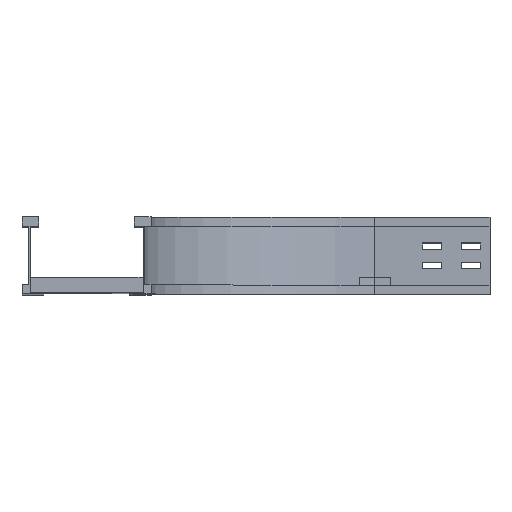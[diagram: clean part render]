
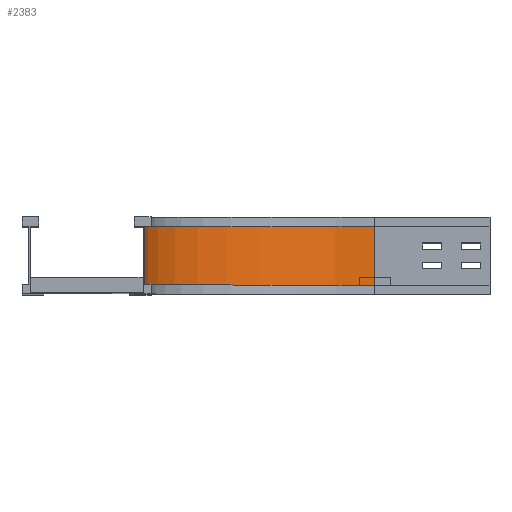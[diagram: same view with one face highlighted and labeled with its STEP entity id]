
A CAD part, top view. The second image highlights one B-rep face of the part: STEP entity #2383.
In plain terms, the highlighted cylindrical face has radius 300 mm (diameter 600 mm), a partial arc.
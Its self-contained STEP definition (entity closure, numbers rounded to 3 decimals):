
#127 = CARTESIAN_POINT ( 'NONE',  ( 291., 0., -150. ) ) ;
#142 = AXIS2_PLACEMENT_3D ( 'NONE', #127, #4119, #1133 ) ;
#555 = CARTESIAN_POINT ( 'NONE',  ( 291., 12., -450. ) ) ;
#563 = LINE ( 'NONE', #1898, #2064 ) ;
#804 = DIRECTION ( 'NONE',  ( 0., -1., 0. ) ) ;
#891 = EDGE_CURVE ( 'NONE', #2318, #2157, #1853, .T. ) ;
#930 = VERTEX_POINT ( 'NONE', #2797 ) ;
#944 = CARTESIAN_POINT ( 'NONE',  ( 291., 88., -150. ) ) ;
#1019 = EDGE_CURVE ( 'NONE', #930, #2157, #2187, .T. ) ;
#1082 = CIRCLE ( 'NONE', #4083, 300. ) ;
#1133 = DIRECTION ( 'NONE',  ( 0., 0., -1. ) ) ;
#1148 = DIRECTION ( 'NONE',  ( -1., 0., 0. ) ) ;
#1237 = AXIS2_PLACEMENT_3D ( 'NONE', #944, #3981, #3706 ) ;
#1601 = CARTESIAN_POINT ( 'NONE',  ( 291., 88., -450. ) ) ;
#1853 = CIRCLE ( 'NONE', #1237, 300. ) ;
#1898 = CARTESIAN_POINT ( 'NONE',  ( -9., 12., -150. ) ) ;
#2057 = ORIENTED_EDGE ( 'NONE', *, *, #3668, .F. ) ;
#2064 = VECTOR ( 'NONE', #3945, 1000. ) ;
#2151 = FACE_OUTER_BOUND ( 'NONE', #2252, .T. ) ;
#2157 = VERTEX_POINT ( 'NONE', #1601 ) ;
#2186 = ORIENTED_EDGE ( 'NONE', *, *, #4298, .T. ) ;
#2187 = LINE ( 'NONE', #555, #3612 ) ;
#2252 = EDGE_LOOP ( 'NONE', ( #3964, #2057, #2186, #3800 ) ) ;
#2318 = VERTEX_POINT ( 'NONE', #3734 ) ;
#2383 = ADVANCED_FACE ( 'NONE', ( #2151 ), #3117, .F. ) ;
#2386 = VERTEX_POINT ( 'NONE', #3483 ) ;
#2502 = DIRECTION ( 'NONE',  ( 0., 1., 0. ) ) ;
#2797 = CARTESIAN_POINT ( 'NONE',  ( 291., 12., -450. ) ) ;
#2801 = CARTESIAN_POINT ( 'NONE',  ( 291., 12., -150. ) ) ;
#3117 = CYLINDRICAL_SURFACE ( 'NONE', #142, 300. ) ;
#3483 = CARTESIAN_POINT ( 'NONE',  ( -9., 12., -150. ) ) ;
#3612 = VECTOR ( 'NONE', #2502, 1000. ) ;
#3668 = EDGE_CURVE ( 'NONE', #2386, #2318, #563, .T. ) ;
#3706 = DIRECTION ( 'NONE',  ( -1., 0., 0. ) ) ;
#3734 = CARTESIAN_POINT ( 'NONE',  ( -9., 88., -150. ) ) ;
#3800 = ORIENTED_EDGE ( 'NONE', *, *, #1019, .T. ) ;
#3945 = DIRECTION ( 'NONE',  ( 0., 1., 0. ) ) ;
#3964 = ORIENTED_EDGE ( 'NONE', *, *, #891, .F. ) ;
#3981 = DIRECTION ( 'NONE',  ( 0., -1., 0. ) ) ;
#4083 = AXIS2_PLACEMENT_3D ( 'NONE', #2801, #804, #1148 ) ;
#4119 = DIRECTION ( 'NONE',  ( 0., -1., 0. ) ) ;
#4298 = EDGE_CURVE ( 'NONE', #2386, #930, #1082, .T. ) ;
